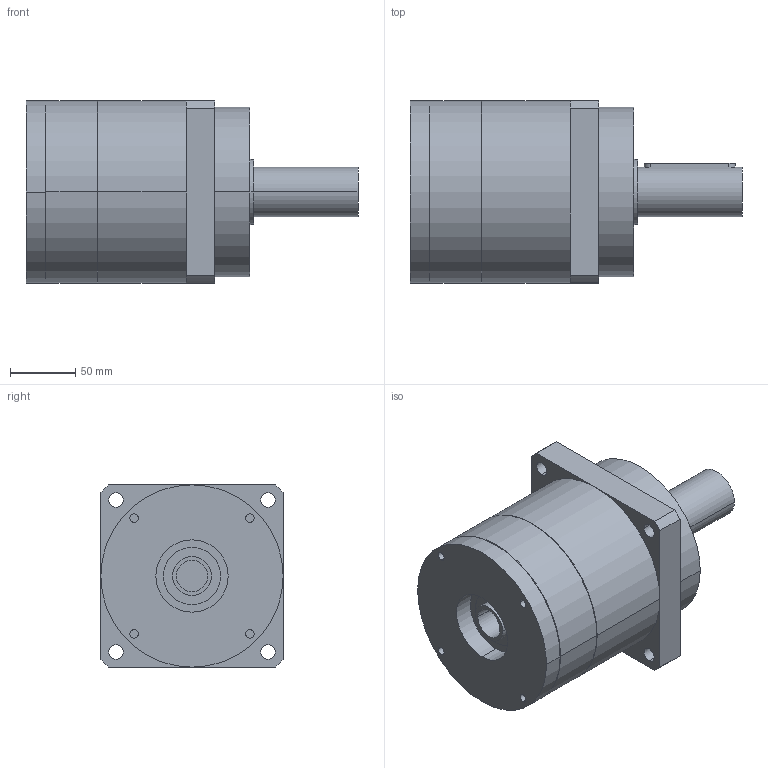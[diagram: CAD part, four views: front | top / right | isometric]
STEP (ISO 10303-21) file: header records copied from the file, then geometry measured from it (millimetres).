
FILE_DESCRIPTION(('CoCreate Modeling STEP Export'),'2;1');
FILE_NAME('GPR150_ig-3-4-5-7_38_B5_24_P01.stp','2014-08-19T16:42:21',(''),(''),'CoCreate Modeling STEP processor for AP214 (Solid Model)','CoCreate Modeling 16.00C 25-Feb-2009 (C) Parametric Technology GmbH','');
FILE_SCHEMA(('AUTOMOTIVE_DESIGN { 1 0 10303 214 1 1 1 1 }'));
Length unit declared in the file: millimetre
Products named in the file (2): GPR150_ig-3-4-5-7_38_B5_24_P01
Assembly tree (1 placements, depth 2):
  GPR150_ig-3-4-5-7_38_B5_24_P01
    GPR150_ig-3-4-5-7_38_B5_24_P01
Bounding box: 255 x 140 x 140 mm (x, y, z)
Volume: 2712307.4 mm3; surface area: 139239 mm2
Topology: 1 solids, 1 shells, 88 faces, 222 edges, 152 vertices
Faces by surface type: cylinder 52, plane 30, cone 6
Entity records: 2317 total; most frequent: ORIENTED_EDGE 440, CARTESIAN_POINT 424, DIRECTION 320, EDGE_CURVE 220, VERTEX_POINT 152, AXIS2_PLACEMENT_3D 120, EDGE_LOOP 114, FACE_OUTER_BOUND 88
